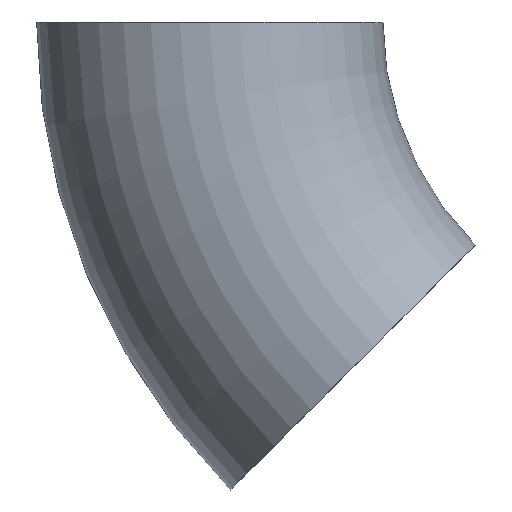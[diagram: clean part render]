
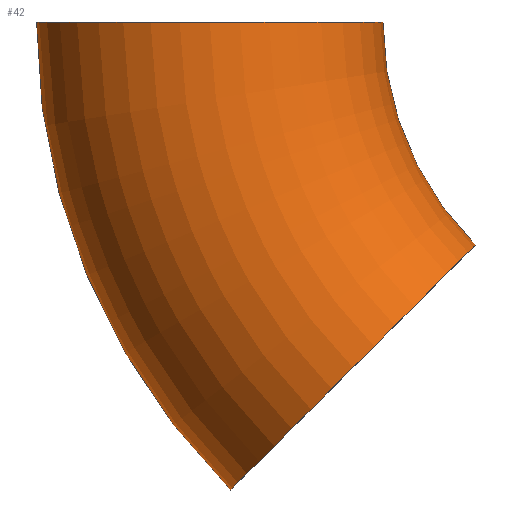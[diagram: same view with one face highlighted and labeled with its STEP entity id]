
A CAD part, front view. The second image highlights one B-rep face of the part: STEP entity #42.
In plain terms, the highlighted toroidal (fillet/blend) face has major radius 457 mm and minor radius 161.95 mm.
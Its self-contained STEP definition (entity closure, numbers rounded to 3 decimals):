
#12 = ORIENTED_EDGE ( 'NONE', *, *, #244, .F. ) ;
#27 = CIRCLE ( 'NONE', #237, 161.95 ) ;
#33 = DIRECTION ( 'NONE',  ( 0., 1., 0. ) ) ;
#37 = CIRCLE ( 'NONE', #99, 295.05 ) ;
#39 = DIRECTION ( 'NONE',  ( -0.707, 0., 0.707 ) ) ;
#42 = ADVANCED_FACE ( 'NONE', ( #70 ), #50, .T. ) ;
#50 = TOROIDAL_SURFACE ( 'NONE', #154, 457., 161.95 ) ;
#55 = DIRECTION ( 'NONE',  ( 0., 0., 1. ) ) ;
#59 = CARTESIAN_POINT ( 'NONE',  ( -295.05, 0., 0. ) ) ;
#62 = DIRECTION ( 'NONE',  ( 0., 1., 0. ) ) ;
#70 = FACE_OUTER_BOUND ( 'NONE', #174, .T. ) ;
#77 = CARTESIAN_POINT ( 'NONE',  ( 0., 0., 0. ) ) ;
#90 = ORIENTED_EDGE ( 'NONE', *, *, #143, .T. ) ;
#94 = AXIS2_PLACEMENT_3D ( 'NONE', #77, #181, #218 ) ;
#99 = AXIS2_PLACEMENT_3D ( 'NONE', #104, #62, #55 ) ;
#101 = CARTESIAN_POINT ( 'NONE',  ( -208.632, 0., -208.632 ) ) ;
#104 = CARTESIAN_POINT ( 'NONE',  ( 0., 0., 0. ) ) ;
#110 = CIRCLE ( 'NONE', #94, 618.95 ) ;
#138 = CARTESIAN_POINT ( 'NONE',  ( -618.95, 0., 0. ) ) ;
#140 = CARTESIAN_POINT ( 'NONE',  ( -437.664, 0., -437.664 ) ) ;
#143 = EDGE_CURVE ( 'NONE', #185, #247, #37, .T. ) ;
#154 = AXIS2_PLACEMENT_3D ( 'NONE', #209, #33, #210 ) ;
#157 = ORIENTED_EDGE ( 'NONE', *, *, #159, .T. ) ;
#159 = EDGE_CURVE ( 'NONE', #251, #185, #27, .T. ) ;
#161 = CARTESIAN_POINT ( 'NONE',  ( -457., 0., 0. ) ) ;
#164 = CARTESIAN_POINT ( 'NONE',  ( -323.148, 0., -323.148 ) ) ;
#165 = AXIS2_PLACEMENT_3D ( 'NONE', #161, #180, #235 ) ;
#174 = EDGE_LOOP ( 'NONE', ( #230, #157, #90, #12 ) ) ;
#180 = DIRECTION ( 'NONE',  ( 0., 0., 1. ) ) ;
#181 = DIRECTION ( 'NONE',  ( 0., 1., 0. ) ) ;
#185 = VERTEX_POINT ( 'NONE', #101 ) ;
#198 = DIRECTION ( 'NONE',  ( 0.707, 0., 0.707 ) ) ;
#209 = CARTESIAN_POINT ( 'NONE',  ( 0., 0., 0. ) ) ;
#210 = DIRECTION ( 'NONE',  ( 0., 0., 1. ) ) ;
#212 = VERTEX_POINT ( 'NONE', #138 ) ;
#213 = EDGE_CURVE ( 'NONE', #251, #212, #110, .T. ) ;
#218 = DIRECTION ( 'NONE',  ( 0., 0., 1. ) ) ;
#230 = ORIENTED_EDGE ( 'NONE', *, *, #213, .F. ) ;
#234 = CIRCLE ( 'NONE', #165, 161.95 ) ;
#235 = DIRECTION ( 'NONE',  ( 1., 0., 0. ) ) ;
#237 = AXIS2_PLACEMENT_3D ( 'NONE', #164, #39, #198 ) ;
#244 = EDGE_CURVE ( 'NONE', #212, #247, #234, .T. ) ;
#247 = VERTEX_POINT ( 'NONE', #59 ) ;
#251 = VERTEX_POINT ( 'NONE', #140 ) ;
